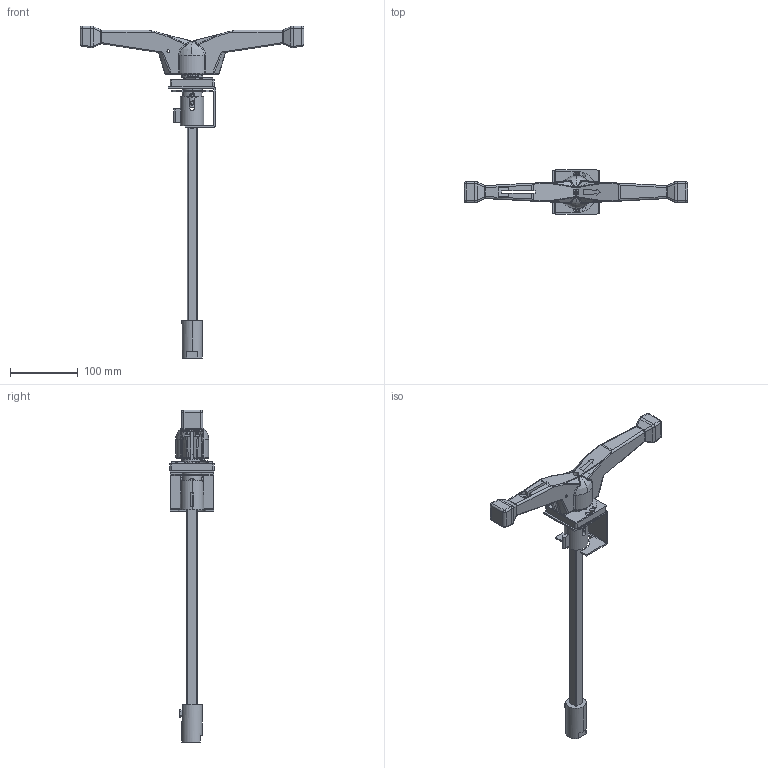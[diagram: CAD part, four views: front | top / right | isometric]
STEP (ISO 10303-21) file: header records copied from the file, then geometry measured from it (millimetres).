
FILE_DESCRIPTION (( 'STEP AP214' ), '1' );
FILE_NAME ('Extended rotary handle-GL-800-1600.STEP', '2026-01-14T08:33:09', ( '' ), ( '' ), 'SwSTEP 2.0', 'SolidWorks 2024', '' );
FILE_SCHEMA (( 'AUTOMOTIVE_DESIGN' ));
Length unit declared in the file: millimetre
Products named in the file (12): HGL-8001600-218770001_1_1_1.stp; GL-100030001_ASM_1_ASM_1_ASM_1.stp; 1000_ASM_1_ASM_1_ASM_1.stp; Extended rotary handle-GL-800-1600; NONE-5803_1_1_1.stp; GL-1000-1600_ASM_1_ASM_1.stp; GL-1000GUIWAIZUJIAN_ASM_1_ASM_1.stp; DNH8_HGL_-125000_1_1.stp; HGL-8001600-384580001_1_1_1.stp; Extended rotary handle-GL-800-1600.stp; HGL-8001600-379820001_1_1_1.stp; HGL-8001600-373390001_1_1_1.stp
Assembly tree (11 placements, depth 7):
  Extended rotary handle-GL-800-1600
    Extended rotary handle-GL-800-1600.stp
      GL-1000-1600_ASM_1_ASM_1.stp
        GL-1000GUIWAIZUJIAN_ASM_1_ASM_1.stp
          GL-100030001_ASM_1_ASM_1_ASM_1.stp
            1000_ASM_1_ASM_1_ASM_1.stp
              NONE-5803_1_1_1.stp
              HGL-8001600-218770001_1_1_1.stp
              HGL-8001600-373390001_1_1_1.stp
              HGL-8001600-379820001_1_1_1.stp
              HGL-8001600-384580001_1_1_1.stp
        DNH8_HGL_-125000_1_1.stp
Bounding box: 330 x 65 x 489.64 mm (x, y, z)
Volume: 411359.4 mm3; surface area: 173829.9 mm2
Topology: 6 solids, 8 shells, 918 faces, 2456 edges, 1556 vertices
Faces by surface type: plane 522, cylinder 243, bspline 82, cone 45, torus 26
Entity records: 39355 total; most frequent: CARTESIAN_POINT 17226, ORIENTED_EDGE 4862, DIRECTION 4024, EDGE_CURVE 2431, VERTEX_POINT 1556, LINE 1442, VECTOR 1442, AXIS2_PLACEMENT_3D 1291
